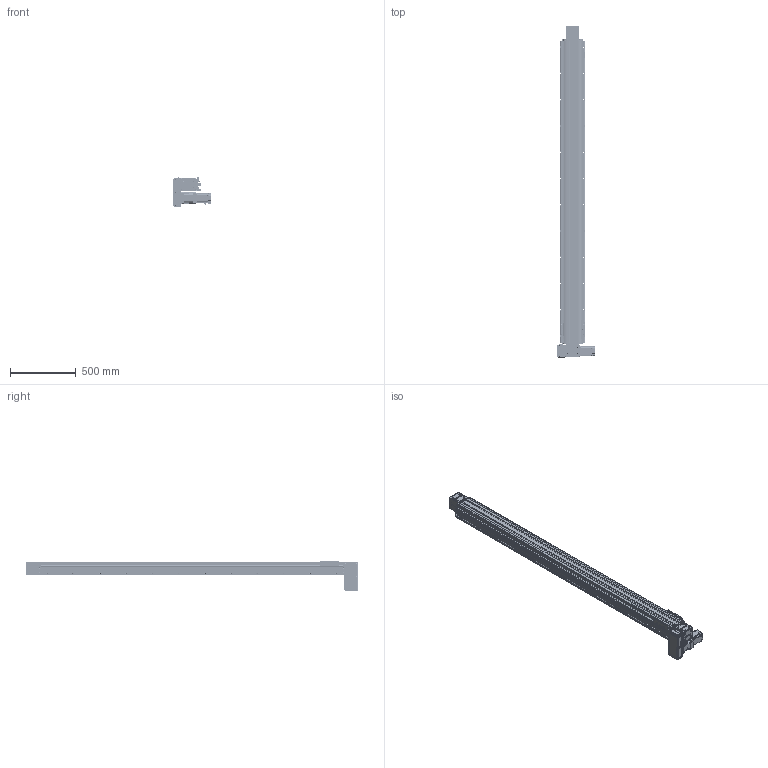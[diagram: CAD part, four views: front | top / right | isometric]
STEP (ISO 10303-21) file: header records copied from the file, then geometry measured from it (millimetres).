
FILE_DESCRIPTION(/* description */ (''),/* implementation_level */ '2;1');
FILE_NAME(/* name */ '\\192.168.0.160\disk1\HAN SHIN Master\B-설계부문\C-표준\B-2024년\BC02-표준도면\+로봇 개선표준도면\홈페이지 표준 도면\홈페이지 최종 작업 폴더\3D\HSB\HSB160\HSB160-DL7G-N-2100-R.stp',/* time_stamp */ '2025-01-10T11:25:47+09:00',/* author */ ('user'),/* organization */ (''),/* preprocessor_version */ 'ST-DEVELOPER v18.1',/* originating_system */ 'Autodesk Inventor 2022',/* authorisation */ '');
FILE_SCHEMA (('AUTOMOTIVE_DESIGN { 1 0 10303 214 3 1 1 }'));
Products named in the file (42): HSB160-DL7G-N-0500-R; BASE; HSB160 TABLE (TEST); FORNT HOUSUNG-1 (Connecting); UPCOVER; HSB160 COVER-1; REAR HOUSUNG-1---; HSB160 REAR SHAFT-2; REAR SHAFT--2; 6004ZZ; 6004ZZ Outer ring; 6004ZZ Shield1; 6004ZZ Inner ring; 6004ZZ Ball; 6004ZZ Shield2; STOPPER3; TENSION PLATE; HSB160 ARC COVER; hsr_ftht_A-M6F_grease_nipple_joint; NIPPLE CAP(신규); SIDE COVER; hg-kr73_; PGX90-H-1_3; HSB160 BEARING OVER; HSB160 END COVER; HSB160 SHAFT-1; 6206ZZ; 6206ZZ Outer ring; 6206ZZ Shield1; 6206ZZ Inner ring; 6206ZZ Ball; 6206ZZ Shield2; HR120 SENSOR DOG; SENSOR BRK(EE-SX674A); EE_SX674A; D MOTOR PLATE ASSY; HSB160 D MOTOR PLATE; HR160 400W LR BELT COVER; 750W MOTOR PLATE; HR180 ACRYL COVER - 1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
Assembly tree (87 placements, depth 3):
  HSB160-DL7G-N-0500-R
    BASE
    HSB160 TABLE (TEST)
    FORNT HOUSUNG-1 (Connecting)
    UPCOVER
    HSB160 COVER-1  x2
    REAR HOUSUNG-1---
    6004ZZ  x2
      6004ZZ Outer ring
      6004ZZ Shield1
      6004ZZ Inner ring
      6004ZZ Ball
      6004ZZ Shield2
    HSB160 REAR SHAFT-2
    REAR SHAFT--2
    TENSION PLATE  x2
    HSB160 ARC COVER  x4
    STOPPER3  x4
    SIDE COVER  x2
    hsr_ftht_A-M6F_grease_nipple_joint  x4
    NIPPLE CAP(신규)  x4
    hg-kr73_
    PGX90-H-1_3
    HSB160 BEARING OVER
    HSB160 END COVER
    6206ZZ  x2
      6206ZZ Outer ring
      6206ZZ Shield1
      6206ZZ Inner ring
      6206ZZ Ball
      6206ZZ Shield2
    HSB160 SHAFT-1
    HR120 SENSOR DOG
    SENSOR BRK(EE-SX674A)  x3
    EE_SX674A  x3
    D MOTOR PLATE ASSY
      HSB160 D MOTOR PLATE
      HR160 400W LR BELT COVER
      750W MOTOR PLATE
      HR180 ACRYL COVER - 1_2  x2
      HR180 ACRYL COVER - 1
      HR180 ACRYL COVER - 1_1
Bounding box: 284.5 x 2528.5 x 226.5 mm (x, y, z)
Volume: 15127881.4 mm3; surface area: 3821365.3 mm2
Topology: 131 solids, 133 shells, 6586 faces, 18113 edges, 11906 vertices
Faces by surface type: plane 4602, cylinder 1429, cone 383, sphere 88, torus 59, bspline 25
Full cylindrical faces by diameter (mm): 2.013 x2, 2.459 x54, 3 x20, 3.242 x50, 3.4 x22, 3.5 x6, 4.134 x18, 4.2 x4, 4.5 x40, 4.917 x82, 5 x44, 5.1 x1, 5.5 x25, 5.6 x4, 5.9 x4, 6 x21, 6.5 x9, 6.6 x18, 6.8 x9, 7 x32, 7.6 x4, 8 x5, 8.376 x24, 8.433 x2, 9 x4, 9.5 x31, 10 x5, 11 x28, 15 x8, 18.5 x2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
Entity records: 121881 total; most frequent: CARTESIAN_POINT 23027, DIRECTION 20312, ORIENTED_EDGE 19678, EDGE_CURVE 9839, AXIS2_PLACEMENT_3D 6926, VERTEX_POINT 6507, LINE 6460, VECTOR 6460
